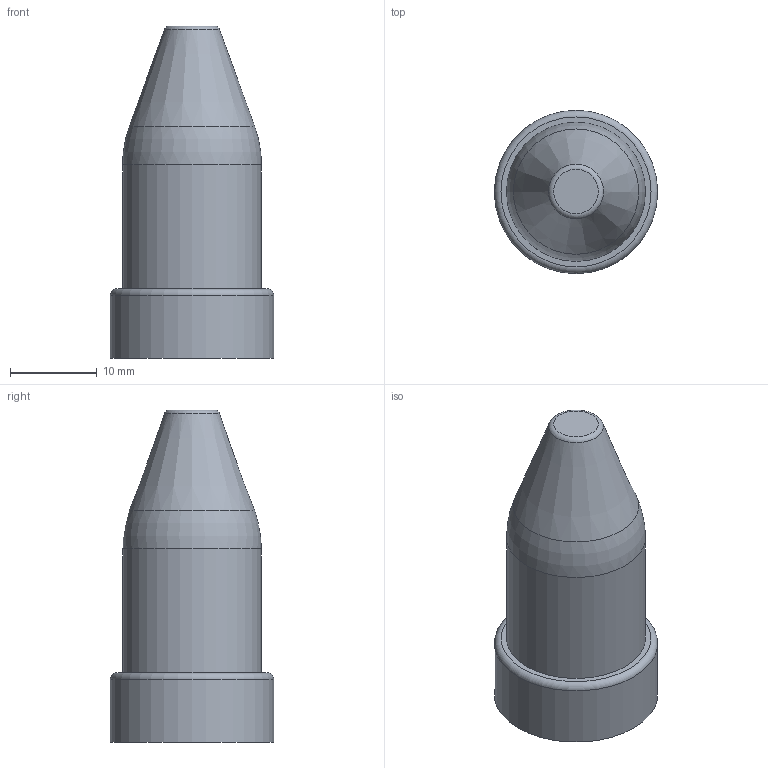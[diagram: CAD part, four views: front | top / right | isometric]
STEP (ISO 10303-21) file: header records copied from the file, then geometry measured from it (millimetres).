
FILE_DESCRIPTION (( 'STEP AP214' ), '1' );
FILE_NAME ('P-16mm-3.2mm-.750.STEP', '2023-11-07T11:17:45', ( '' ), ( '' ), 'SwSTEP 2.0', 'SolidWorks 2020', '' );
FILE_SCHEMA (( 'AUTOMOTIVE_DESIGN' ));
Length unit declared in the file: inch
Products named in the file (1): P-16mm-3.2mm-.750
Bounding box: 18.8 x 18.8 x 38.22 mm (x, y, z)
Volume: 6911.4 mm3; surface area: 2163.5 mm2
Topology: 1 solids, 1 shells, 9 faces, 14 edges, 8 vertices
Faces by surface type: plane 3, torus 3, cylinder 2, cone 1
Full cylindrical faces by diameter (mm): 15.999 x1, 18.796 x1
Entity records: 214 total; most frequent: DIRECTION 36, CARTESIAN_POINT 26, AXIS2_PLACEMENT_3D 18, ORIENTED_EDGE 16, EDGE_LOOP 16, FACE_OUTER_BOUND 14, ADVANCED_FACE 9, VERTEX_POINT 8
